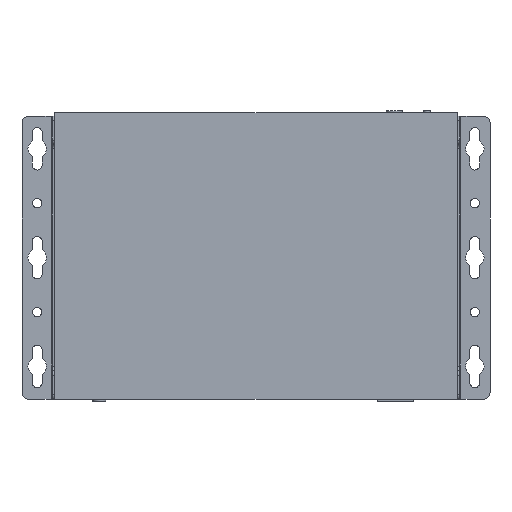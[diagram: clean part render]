
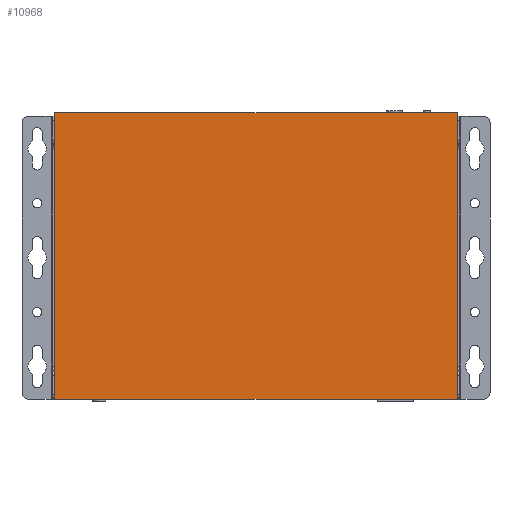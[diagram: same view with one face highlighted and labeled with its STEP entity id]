
A CAD part, front view. The second image highlights one B-rep face of the part: STEP entity #10968.
In plain terms, the highlighted planar face has unit normal (0, -1, 0).
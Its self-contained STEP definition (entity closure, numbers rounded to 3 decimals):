
#1079 = FACE_OUTER_BOUND ( 'NONE', #14805, .T. ) ;
#2055 = VERTEX_POINT ( 'NONE', #49357 ) ;
#3166 = DIRECTION ( 'NONE',  ( 1., 0., 0. ) ) ;
#4367 = VERTEX_POINT ( 'NONE', #35997 ) ;
#4694 = DIRECTION ( 'NONE',  ( 0., -1., 0. ) ) ;
#8492 = DIRECTION ( 'NONE',  ( 1., 0., 0. ) ) ;
#8740 = LINE ( 'NONE', #27789, #47300 ) ;
#9164 = DIRECTION ( 'NONE',  ( 1., 0., 0. ) ) ;
#9813 = VECTOR ( 'NONE', #10975, 1000. ) ;
#10968 = ADVANCED_FACE ( 'Face17', ( #1079 ), #32877, .T. ) ;
#10975 = DIRECTION ( 'NONE',  ( 0., 0., 1. ) ) ;
#12051 = ORIENTED_EDGE ( 'NONE', *, *, #38445, .F. ) ;
#14047 = ORIENTED_EDGE ( 'NONE', *, *, #45209, .T. ) ;
#14805 = EDGE_LOOP ( 'NONE', ( #40323, #12051, #42061, #14047 ) ) ;
#17059 = LINE ( 'NONE', #48865, #45968 ) ;
#17319 = DIRECTION ( 'NONE',  ( 0., 0., 1. ) ) ;
#19579 = CARTESIAN_POINT ( 'NONE',  ( -92.5, -15.25, 0. ) ) ;
#19799 = CARTESIAN_POINT ( 'NONE',  ( 92.5, -15.25, -131.5 ) ) ;
#22611 = EDGE_CURVE ( 'NONE', #4367, #30246, #51157, .T. ) ;
#24077 = VERTEX_POINT ( 'NONE', #36863 ) ;
#27789 = CARTESIAN_POINT ( 'NONE',  ( -92.5, -15.25, -131.5 ) ) ;
#30246 = VERTEX_POINT ( 'NONE', #47013 ) ;
#31298 = LINE ( 'NONE', #19799, #9813 ) ;
#32877 = PLANE ( 'NONE',  #49872 ) ;
#35997 = CARTESIAN_POINT ( 'NONE',  ( -92.5, -15.25, 0. ) ) ;
#36863 = CARTESIAN_POINT ( 'NONE',  ( -92.5, -15.25, -131.5 ) ) ;
#38445 = EDGE_CURVE ( 'NONE', #24077, #4367, #17059, .T. ) ;
#40323 = ORIENTED_EDGE ( 'NONE', *, *, #22611, .F. ) ;
#42061 = ORIENTED_EDGE ( 'NONE', *, *, #43446, .T. ) ;
#43446 = EDGE_CURVE ( 'NONE', #24077, #2055, #8740, .T. ) ;
#45138 = CARTESIAN_POINT ( 'NONE',  ( -92.5, -15.25, -131.5 ) ) ;
#45209 = EDGE_CURVE ( 'NONE', #2055, #30246, #31298, .T. ) ;
#45968 = VECTOR ( 'NONE', #17319, 1000. ) ;
#47013 = CARTESIAN_POINT ( 'NONE',  ( 92.5, -15.25, 0. ) ) ;
#47300 = VECTOR ( 'NONE', #8492, 1000. ) ;
#47759 = VECTOR ( 'NONE', #3166, 1000. ) ;
#48865 = CARTESIAN_POINT ( 'NONE',  ( -92.5, -15.25, -131.5 ) ) ;
#49357 = CARTESIAN_POINT ( 'NONE',  ( 92.5, -15.25, -131.5 ) ) ;
#49872 = AXIS2_PLACEMENT_3D ( 'NONE', #45138, #4694, #9164 ) ;
#51157 = LINE ( 'NONE', #19579, #47759 ) ;
